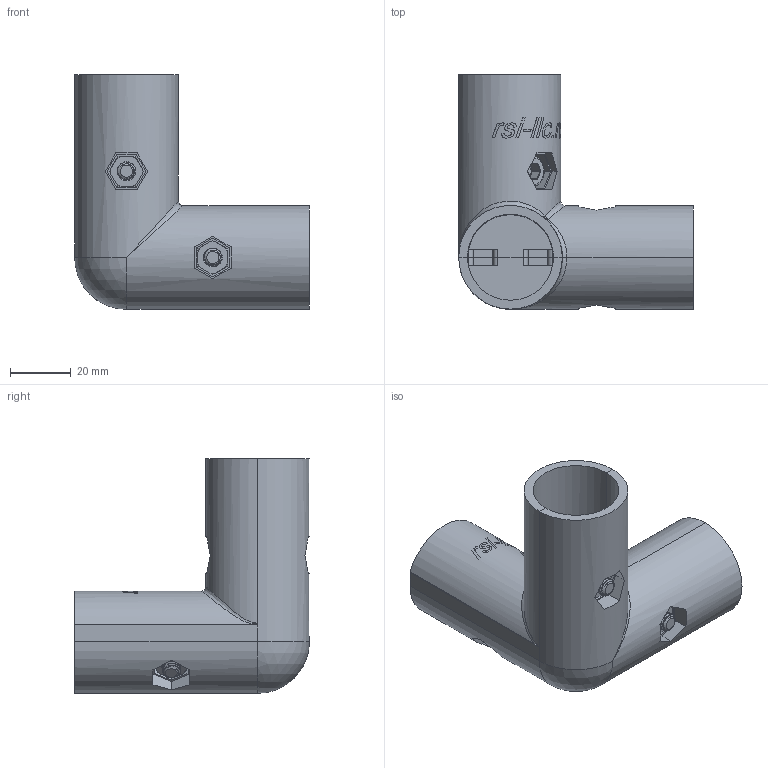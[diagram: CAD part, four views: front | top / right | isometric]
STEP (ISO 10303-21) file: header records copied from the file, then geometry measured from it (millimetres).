
FILE_DESCRIPTION (( 'STEP AP214' ), '1' );
FILE_NAME ('1207.STEP', '2022-08-03T11:30:26', ( 'Home' ), ( '' ), 'SwSTEP 2.0', 'SolidWorks 2020', '' );
FILE_SCHEMA (( 'AUTOMOTIVE_DESIGN' ));
Length unit declared in the file: millimetre
Products named in the file (5): 1207-2; 1207-1; Âèíò DIN912_Œ6å20; 1207; Ãàéêà Ì6
Assembly tree (8 placements, depth 2):
  1207
    1207-2
    Âèíò DIN912_Œ6å20  x3
    Ãàéêà Ì6  x3
    1207-1
Bounding box: 77.03 x 77 x 77.03 mm (x, y, z)
Volume: 96369.4 mm3; surface area: 41318.3 mm2
Topology: 8 solids, 8 shells, 749 faces, 1970 edges, 1244 vertices
Faces by surface type: cylinder 287, plane 211, bspline 134, cone 60, torus 37, sphere 20
Entity records: 31704 total; most frequent: CARTESIAN_POINT 20196, ORIENTED_EDGE 2456, DIRECTION 1702, EDGE_CURVE 1228, VERTEX_POINT 794, AXIS2_PLACEMENT_3D 589, LINE 524, VECTOR 524
